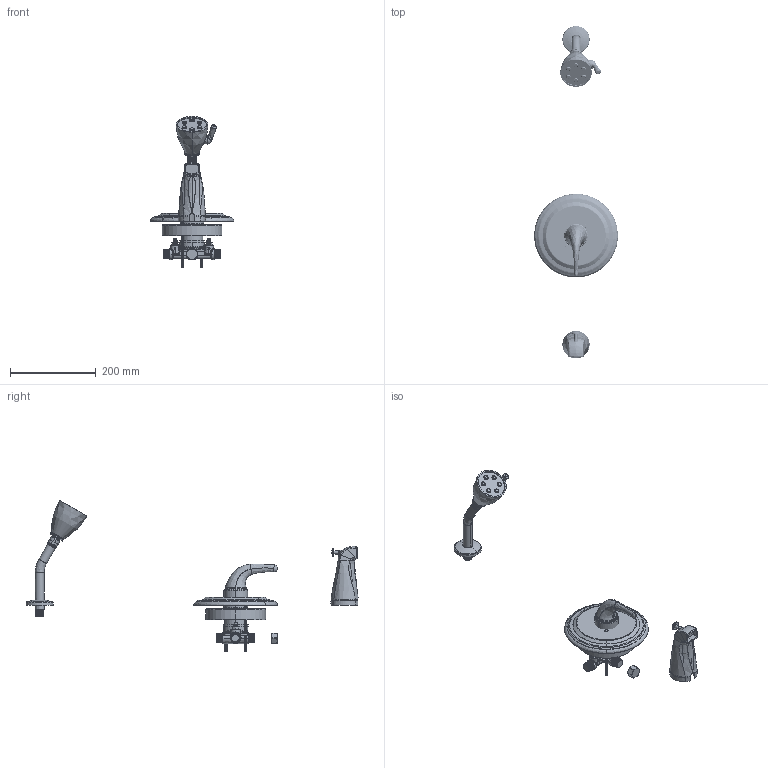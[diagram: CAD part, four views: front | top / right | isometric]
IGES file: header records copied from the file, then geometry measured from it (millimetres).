
Start section:  PTC IGES file: sh-tp7-01-100_REV030920.igs
Global section: file name: sh-tp7-01-100_REV030920.igs; native system: Creo Parametric by PTC Inc.; preprocessor: 2018500; author: dmisv; organization: Unknown; date: 20200320.092312; units: inch
Bounding box: 194.76 x 774.14 x 352.5 mm (x, y, z)
Surface area: 270291.6 mm2 (no closed solid volume)
Topology: 0 solids, 0 shells, 1656 faces, 15258 edges, 21154 vertices
Faces by surface type: bspline 890, revolution 732, extrusion 34
